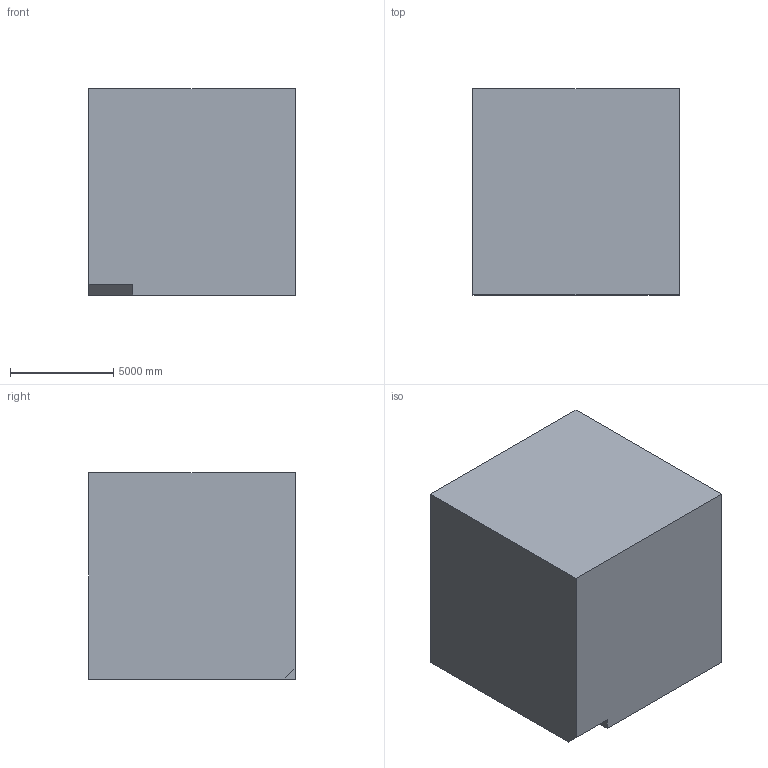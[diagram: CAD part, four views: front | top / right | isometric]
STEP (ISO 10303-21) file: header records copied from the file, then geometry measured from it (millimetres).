
FILE_DESCRIPTION (( 'STEP AP203' ), '1' );
FILE_NAME ('19.STEP', '2022-09-02T13:41:45', ( 'user' ), ( '' ), 'SwSTEP 2.0', 'SolidWorks 2021', '' );
FILE_SCHEMA (( 'CONFIG_CONTROL_DESIGN' ));
Length unit declared in the file: centimetre
Products named in the file (1): 19
Bounding box: 10000 x 10000 x 10000 mm (x, y, z)
Volume: 920791718306.4 mm3; surface area: 679459777.3 mm2
Topology: 1 solids, 1 shells, 11 faces, 24 edges, 16 vertices
Faces by surface type: plane 9, cylinder 2
Entity records: 379 total; most frequent: DIRECTION 52, CARTESIAN_POINT 52, ORIENTED_EDGE 48, EDGE_CURVE 24, VECTOR 20, LINE 20, AXIS2_PLACEMENT_3D 16, VERTEX_POINT 16
